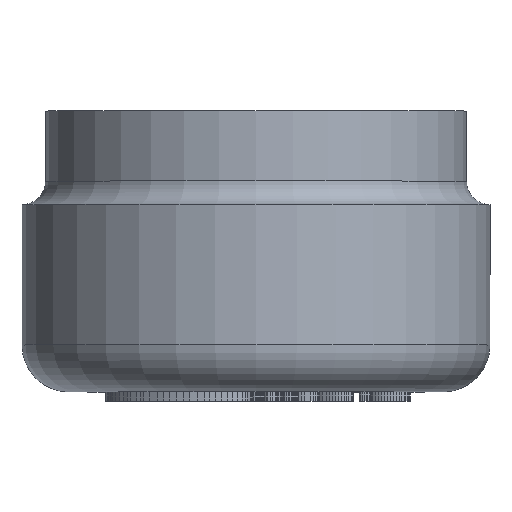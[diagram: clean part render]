
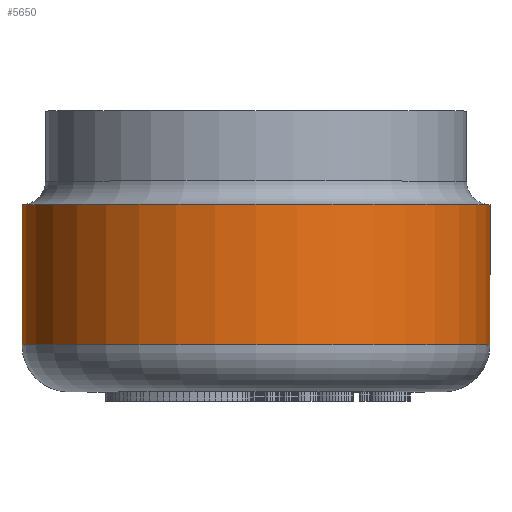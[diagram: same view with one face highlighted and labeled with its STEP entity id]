
A CAD part, top view. The second image highlights one B-rep face of the part: STEP entity #5650.
In plain terms, the highlighted cylindrical face has radius 5 mm (diameter 10 mm), a full revolution.
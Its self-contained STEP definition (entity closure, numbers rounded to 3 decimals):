
#1132 = AXIS2_PLACEMENT_3D ( 'NONE', #4010, #14699, #5526 ) ;
#2516 = EDGE_LOOP ( 'NONE', ( #4840 ) ) ;
#3278 = FACE_OUTER_BOUND ( 'NONE', #16652, .T. ) ;
#3698 = DIRECTION ( 'NONE',  ( 0., 1., 0. ) ) ;
#4010 = CARTESIAN_POINT ( 'NONE',  ( 0., 1., 0. ) ) ;
#4718 = AXIS2_PLACEMENT_3D ( 'NONE', #18719, #9556, #15650 ) ;
#4840 = ORIENTED_EDGE ( 'NONE', *, *, #11576, .T. ) ;
#4949 = VERTEX_POINT ( 'NONE', #10256 ) ;
#5526 = DIRECTION ( 'NONE',  ( 0., 0., -1. ) ) ;
#5650 = ADVANCED_FACE ( 'NONE', ( #7354, #3278 ), #6862, .T. ) ;
#6335 = ORIENTED_EDGE ( 'NONE', *, *, #14968, .F. ) ;
#6862 = CYLINDRICAL_SURFACE ( 'NONE', #4718, 5. ) ;
#7354 = FACE_OUTER_BOUND ( 'NONE', #2516, .T. ) ;
#9556 = DIRECTION ( 'NONE',  ( 0., 1., 0. ) ) ;
#10256 = CARTESIAN_POINT ( 'NONE',  ( 0., 1., -5. ) ) ;
#11576 = EDGE_CURVE ( 'NONE', #4949, #4949, #13687, .T. ) ;
#11811 = CARTESIAN_POINT ( 'NONE',  ( 0., 4., 5. ) ) ;
#12863 = CARTESIAN_POINT ( 'NONE',  ( 0., 4., 0. ) ) ;
#13687 = CIRCLE ( 'NONE', #1132, 5. ) ;
#14391 = DIRECTION ( 'NONE',  ( 0., 0., 1. ) ) ;
#14699 = DIRECTION ( 'NONE',  ( 0., 1., 0. ) ) ;
#14968 = EDGE_CURVE ( 'NONE', #16697, #16697, #17947, .T. ) ;
#15650 = DIRECTION ( 'NONE',  ( 0., 0., 1. ) ) ;
#16652 = EDGE_LOOP ( 'NONE', ( #6335 ) ) ;
#16697 = VERTEX_POINT ( 'NONE', #11811 ) ;
#16789 = AXIS2_PLACEMENT_3D ( 'NONE', #12863, #3698, #14391 ) ;
#17947 = CIRCLE ( 'NONE', #16789, 5. ) ;
#18719 = CARTESIAN_POINT ( 'NONE',  ( 0., 37.274, 0. ) ) ;
